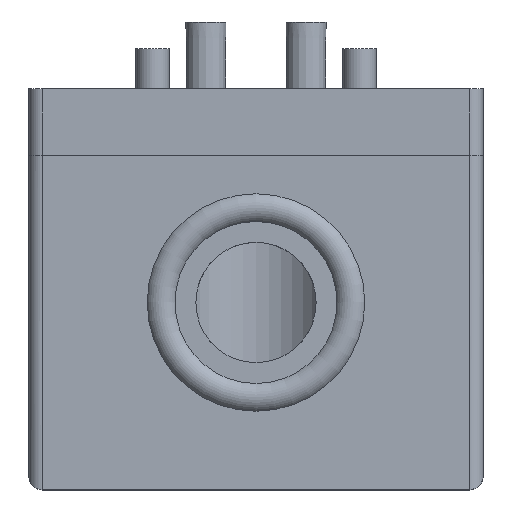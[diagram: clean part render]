
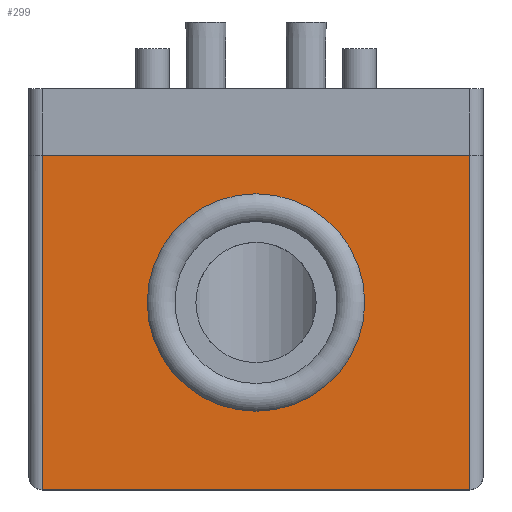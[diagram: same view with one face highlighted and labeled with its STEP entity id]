
A CAD part, top view. The second image highlights one B-rep face of the part: STEP entity #299.
In plain terms, the highlighted planar face has unit normal (0, 0, 1).
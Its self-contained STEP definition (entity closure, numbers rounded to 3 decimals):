
#299=ADVANCED_FACE('',(#728,#729),#730,.T.);
#728=FACE_BOUND('',#1278,.T.);
#729=FACE_OUTER_BOUND('',#1279,.T.);
#730=PLANE('',#1280);
#1278=EDGE_LOOP('',(#2040));
#1279=EDGE_LOOP('',(#2041,#2042,#2043,#2044));
#1280=AXIS2_PLACEMENT_3D('',#2045,#2046,#2047);
#2040=ORIENTED_EDGE('',*,*,#2936,.F.);
#2041=ORIENTED_EDGE('',*,*,#2870,.T.);
#2042=ORIENTED_EDGE('',*,*,#3034,.T.);
#2043=ORIENTED_EDGE('',*,*,#2922,.T.);
#2044=ORIENTED_EDGE('',*,*,#3016,.T.);
#2045=CARTESIAN_POINT('',(-17.0,-30.0,6.1));
#2046=DIRECTION('',(0.0,0.0,1.0));
#2047=DIRECTION('',(1.0,0.0,0.0));
#2870=EDGE_CURVE('',#3344,#3342,#3345,.T.);
#2922=EDGE_CURVE('',#3428,#3426,#3429,.T.);
#2936=EDGE_CURVE('',#3449,#3449,#3450,.T.);
#3016=EDGE_CURVE('',#3426,#3344,#3565,.T.);
#3034=EDGE_CURVE('',#3342,#3428,#3588,.T.);
#3342=VERTEX_POINT('',#4028);
#3344=VERTEX_POINT('',#4031);
#3345=LINE('',#4032,#4033);
#3426=VERTEX_POINT('',#4136);
#3428=VERTEX_POINT('',#4138);
#3429=LINE('',#4139,#4140);
#3449=VERTEX_POINT('',#4160);
#3450=CIRCLE('',#4161,8.139);
#3565=LINE('',#4302,#4303);
#3588=LINE('',#4334,#4335);
#4028=CARTESIAN_POINT('',(16.0,-30.0,6.1));
#4031=CARTESIAN_POINT('',(-16.0,-30.0,6.1));
#4032=CARTESIAN_POINT('',(-17.0,-30.0,6.1));
#4033=VECTOR('',#5018,1.0);
#4136=CARTESIAN_POINT('',(-16.0,-5.0,6.1));
#4138=CARTESIAN_POINT('',(16.0,-5.0,6.1));
#4139=CARTESIAN_POINT('',(17.0,-5.0,6.1));
#4140=VECTOR('',#5086,1.0);
#4160=CARTESIAN_POINT('',(8.139,-16.0,6.1));
#4161=AXIS2_PLACEMENT_3D('',#5108,#5109,#5110);
#4302=CARTESIAN_POINT('',(-16.0,-30.0,6.1));
#4303=VECTOR('',#5200,1.0);
#4334=CARTESIAN_POINT('',(16.0,-5.0,6.1));
#4335=VECTOR('',#5218,1.0);
#5018=DIRECTION('',(1.0,0.0,0.0));
#5086=DIRECTION('',(-1.0,0.0,0.0));
#5108=CARTESIAN_POINT('',(0.,-16.0,6.1));
#5109=DIRECTION('',(0.0,0.0,1.0));
#5110=DIRECTION('',(1.0,0.0,0.0));
#5200=DIRECTION('',(0.0,-1.0,0.0));
#5218=DIRECTION('',(0.0,1.0,0.0));
